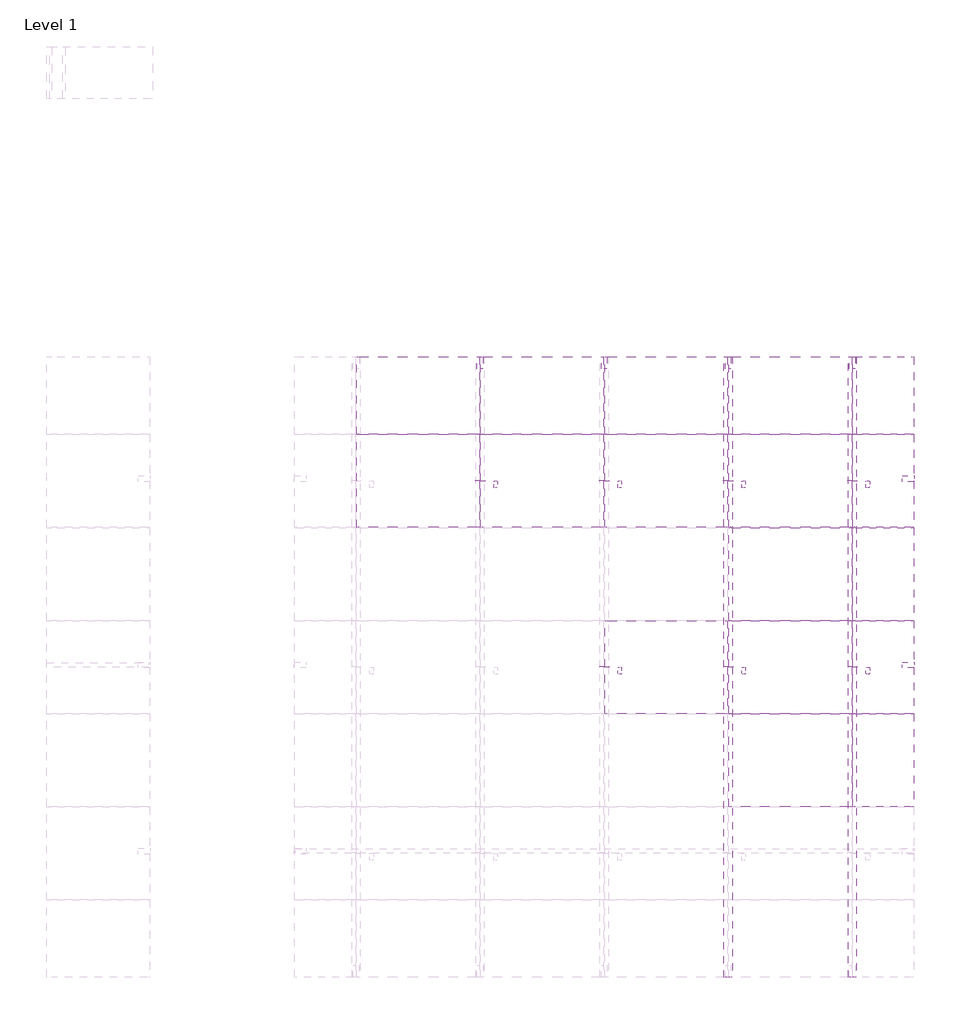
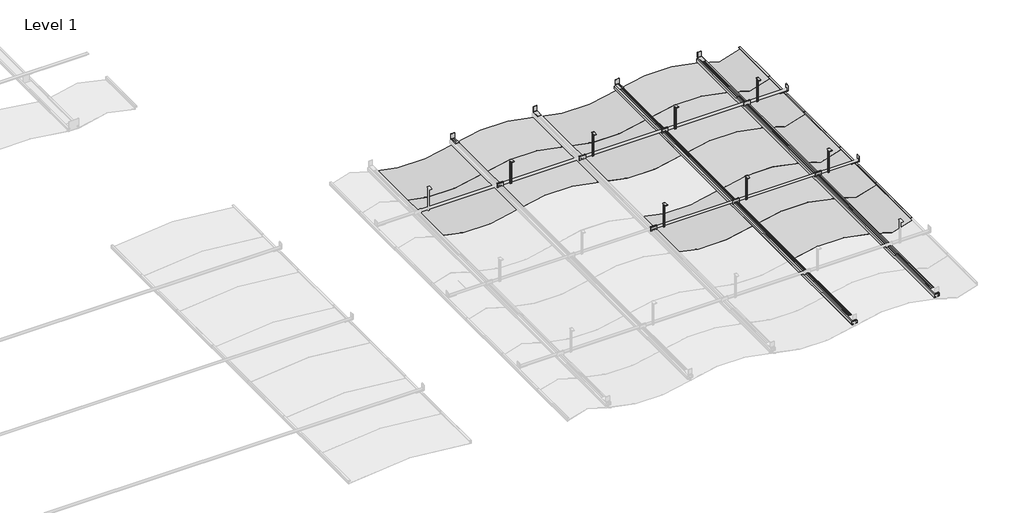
# One storey, part 32 of 32: 39 proxies.
"""IFC4 building model written with IfcOpenShell, lengths in millimetres."""

from ifc_helpers import new_model, si_unit, origin, place, context, project, spatial, transform, mapped, element, save
from components import generic_models_b18b6bec, generic_models_10d21898, generic_models_e175033b, generic_models_3b12604e, generic_models_41f043e1, generic_models_075569b2, generic_models_e62b76ac, generic_models_9e18e937, generic_models_9ccf16c1, generic_models_743fb40c

model = new_model("IFC4")

# Units and contexts
model_context = context("Model", 3, world=origin())
ifc_project = project(units=[si_unit("LENGTHUNIT", "METRE", prefix="MILLI")], contexts=[model_context])

# Site, building, storey
site = spatial("IfcSite", under=ifc_project)
building = spatial("IfcBuilding", under=site)
storey = spatial("IfcBuildingStorey", under=building, Name="Level 1", Elevation=0.0)

# Proxies
placement = place(None, origin())
generic_models_shape = generic_models_b18b6bec(model_context)
element("IfcBuildingElementProxy", 1, Name="durlum_S7_DOMUS_ALT_panel : durlum_S7_DOMUS_panel_wall_length_cut", ObjectType="durlum_S7_DOMUS_ALT_panel : durlum_S7_DOMUS_panel_wall_length_cut", at=placement, inside=storey, context=model_context, shape_type="MappedRepresentation", body=[
    mapped(generic_models_shape, transform((51188.589341, 19637.9344659, 3700.0), x_axis=(1.0, 0.0, 0.0), y_axis=(0.0, 1.0, 0.0), z_axis=(0.0, 0.0, 1.0))),
])
element("IfcBuildingElementProxy", 2, Name="durlum_S7_DOMUS_ALT_panel : durlum_S7_DOMUS_panel_wall_length_cut", ObjectType="durlum_S7_DOMUS_ALT_panel : durlum_S7_DOMUS_panel_wall_length_cut", at=placement, inside=storey, context=model_context, shape_type="MappedRepresentation", body=[
    mapped(generic_models_shape, transform((51188.589341, 20237.9344659, 3700.0), x_axis=(1.0, 0.0, 0.0), y_axis=(0.0, 1.0, 0.0), z_axis=(0.0, 0.0, 1.0))),
])
element("IfcBuildingElementProxy", 3, Name="durlum_S7_DOMUS_ALT_panel : durlum_S7_DOMUS_panel_wall_length_cut", ObjectType="durlum_S7_DOMUS_ALT_panel : durlum_S7_DOMUS_panel_wall_length_cut", at=placement, inside=storey, context=model_context, shape_type="MappedRepresentation", body=[
    mapped(generic_models_shape, transform((51188.589341, 18437.9344659, 3700.0), x_axis=(1.0, 0.0, 0.0), y_axis=(0.0, 1.0, 0.0), z_axis=(0.0, 0.0, 1.0))),
])
element("IfcBuildingElementProxy", 4, Name="durlum_S7_DOMUS_ALT_panel : durlum_S7_DOMUS_panel_wall_length_cut", ObjectType="durlum_S7_DOMUS_ALT_panel : durlum_S7_DOMUS_panel_wall_length_cut", at=placement, inside=storey, context=model_context, shape_type="MappedRepresentation", body=[
    mapped(generic_models_shape, transform((51188.589341, 19037.9344659, 3700.0), x_axis=(1.0, 0.0, 0.0), y_axis=(0.0, 1.0, 0.0), z_axis=(0.0, 0.0, 1.0))),
])
generic_models_2_shape = generic_models_10d21898(model_context)
element("IfcBuildingElementProxy", 5, Name="durlum_S7_DOMUS_ALT_panel : durlum_S7_DOMUS_panel", ObjectType="durlum_S7_DOMUS_ALT_panel : durlum_S7_DOMUS_panel", at=placement, inside=storey, context=model_context, shape_type="MappedRepresentation", body=[
    mapped(generic_models_2_shape, transform((48188.589341, 20237.9344659, 3700.0), x_axis=(1.0, 0.0, 0.0), y_axis=(0.0, 1.0, 0.0), z_axis=(0.0, 0.0, 1.0))),
])
element("IfcBuildingElementProxy", 6, Name="durlum_S7_DOMUS_ALT_panel : durlum_S7_DOMUS_panel", ObjectType="durlum_S7_DOMUS_ALT_panel : durlum_S7_DOMUS_panel", at=placement, inside=storey, context=model_context, shape_type="MappedRepresentation", body=[
    mapped(generic_models_2_shape, transform((49788.589341, 20237.9344659, 3700.0), x_axis=(1.0, 0.0, 0.0), y_axis=(0.0, 1.0, 0.0), z_axis=(0.0, 0.0, 1.0))),
])
element("IfcBuildingElementProxy", 7, Name="durlum_S7_DOMUS_ALT_panel : durlum_S7_DOMUS_panel", ObjectType="durlum_S7_DOMUS_ALT_panel : durlum_S7_DOMUS_panel", at=placement, inside=storey, context=model_context, shape_type="MappedRepresentation", body=[
    mapped(generic_models_2_shape, transform((49788.589341, 19037.9344659, 3700.0), x_axis=(1.0, 0.0, 0.0), y_axis=(0.0, 1.0, 0.0), z_axis=(0.0, 0.0, 1.0))),
])
generic_models_3_shape = generic_models_e175033b(model_context)
element("IfcBuildingElementProxy", 8, Name="durlum_S7_DOMUS_ALT_panel : durlum_S7_DOMUS_panel", ObjectType="durlum_S7_DOMUS_ALT_panel : durlum_S7_DOMUS_panel", at=placement, inside=storey, context=model_context, shape_type="MappedRepresentation", body=[
    mapped(generic_models_3_shape, transform((50588.589341, 19637.9344659, 3700.0), x_axis=(1.0, 0.0, 0.0), y_axis=(0.0, 1.0, 0.0), z_axis=(0.0, 0.0, 1.0))),
])
element("IfcBuildingElementProxy", 9, Name="durlum_S7_DOMUS_ALT_panel : durlum_S7_DOMUS_panel", ObjectType="durlum_S7_DOMUS_ALT_panel : durlum_S7_DOMUS_panel", at=placement, inside=storey, context=model_context, shape_type="MappedRepresentation", body=[
    mapped(generic_models_3_shape, transform((50588.589341, 20237.9344659, 3700.0), x_axis=(1.0, 0.0, 0.0), y_axis=(0.0, 1.0, 0.0), z_axis=(0.0, 0.0, 1.0))),
])
element("IfcBuildingElementProxy", 10, Name="durlum_S7_DOMUS_ALT_panel : durlum_S7_DOMUS_panel", ObjectType="durlum_S7_DOMUS_ALT_panel : durlum_S7_DOMUS_panel", at=placement, inside=storey, context=model_context, shape_type="MappedRepresentation", body=[
    mapped(generic_models_3_shape, transform((48988.589341, 20237.9344659, 3700.0), x_axis=(1.0, 0.0, 0.0), y_axis=(0.0, 1.0, 0.0), z_axis=(0.0, 0.0, 1.0))),
])
element("IfcBuildingElementProxy", 11, Name="durlum_S7_DOMUS_ALT_panel : durlum_S7_DOMUS_panel", ObjectType="durlum_S7_DOMUS_ALT_panel : durlum_S7_DOMUS_panel", at=placement, inside=storey, context=model_context, shape_type="MappedRepresentation", body=[
    mapped(generic_models_3_shape, transform((50588.589341, 18437.9344659, 3700.0), x_axis=(1.0, 0.0, 0.0), y_axis=(0.0, 1.0, 0.0), z_axis=(0.0, 0.0, 1.0))),
])
element("IfcBuildingElementProxy", 12, Name="durlum_S7_DOMUS_ALT_panel : durlum_S7_DOMUS_panel", ObjectType="durlum_S7_DOMUS_ALT_panel : durlum_S7_DOMUS_panel", at=placement, inside=storey, context=model_context, shape_type="MappedRepresentation", body=[
    mapped(generic_models_3_shape, transform((50588.589341, 19037.9344659, 3700.0), x_axis=(1.0, 0.0, 0.0), y_axis=(0.0, 1.0, 0.0), z_axis=(0.0, 0.0, 1.0))),
])
generic_models_4_shape = generic_models_3b12604e(model_context)
element("IfcBuildingElementProxy", 13, Name="durlum_S7_DOMUS_ALT_panel : durlum_S7_DOMUS_panel_wall_corner", ObjectType="durlum_S7_DOMUS_ALT_panel : durlum_S7_DOMUS_panel_wall_corner", at=placement, inside=storey, context=model_context, shape_type="MappedRepresentation", body=[
    mapped(generic_models_4_shape, transform((51188.589341, 20787.9344659, 3700.0), x_axis=(1.0, 0.0, 0.0), y_axis=(0.0, 1.0, 0.0), z_axis=(0.0, 0.0, 1.0))),
])
generic_models_5_shape = generic_models_41f043e1(model_context)
element("IfcBuildingElementProxy", 14, Name="durlum_S7_DOMUS_ALT_panel : durlum_S7_DOMUS_panel", ObjectType="durlum_S7_DOMUS_ALT_panel : durlum_S7_DOMUS_panel", at=placement, inside=storey, context=model_context, shape_type="MappedRepresentation", body=[
    mapped(generic_models_5_shape, transform((48988.589341, 20787.9344659, 3700.0), x_axis=(1.0, 0.0, 0.0), y_axis=(0.0, 1.0, 0.0), z_axis=(0.0, 0.0, 1.0))),
])
element("IfcBuildingElementProxy", 15, Name="durlum_S7_DOMUS_ALT_panel : durlum_S7_DOMUS_panel", ObjectType="durlum_S7_DOMUS_ALT_panel : durlum_S7_DOMUS_panel", at=placement, inside=storey, context=model_context, shape_type="MappedRepresentation", body=[
    mapped(generic_models_5_shape, transform((50588.589341, 20787.9344659, 3700.0), x_axis=(1.0, 0.0, 0.0), y_axis=(0.0, 1.0, 0.0), z_axis=(0.0, 0.0, 1.0))),
])
generic_models_6_shape = generic_models_075569b2(model_context)
element("IfcBuildingElementProxy", 16, Name="durlum_S7_DOMUS_ALT_panel : durlum_S7_DOMUS_panel", ObjectType="durlum_S7_DOMUS_ALT_panel : durlum_S7_DOMUS_panel", at=placement, inside=storey, context=model_context, shape_type="MappedRepresentation", body=[
    mapped(generic_models_6_shape, transform((49788.589341, 20787.9344659, 3700.0), x_axis=(1.0, 0.0, 0.0), y_axis=(0.0, 1.0, 0.0), z_axis=(0.0, 0.0, 1.0))),
])
element("IfcBuildingElementProxy", 17, Name="durlum_S7_DOMUS_ALT_panel : durlum_S7_DOMUS_panel", ObjectType="durlum_S7_DOMUS_ALT_panel : durlum_S7_DOMUS_panel", at=placement, inside=storey, context=model_context, shape_type="MappedRepresentation", body=[
    mapped(generic_models_6_shape, transform((48188.589341, 20787.9344659, 3700.0), x_axis=(1.0, 0.0, 0.0), y_axis=(0.0, 1.0, 0.0), z_axis=(0.0, 0.0, 1.0))),
])
generic_models_7_shape = generic_models_e62b76ac(model_context)
element("IfcBuildingElementProxy", 18, Name="durlum_U1300 : durlum_U1300", ObjectType="durlum_U1300 : durlum_U1300", at=placement, inside=storey, context=model_context, shape_type="MappedRepresentation", body=[
    mapped(generic_models_7_shape, transform((51088.589341, 20237.9344659, 3041.4124682), x_axis=(1.0, 0.0, 0.0), y_axis=(0.0, 1.0, 0.0), z_axis=(0.0, 0.0, 1.0))),
])
element("IfcBuildingElementProxy", 19, Name="durlum_U1300 : durlum_U1300", ObjectType="durlum_U1300 : durlum_U1300", at=placement, inside=storey, context=model_context, shape_type="MappedRepresentation", body=[
    mapped(generic_models_7_shape, transform((48688.589341, 20237.9344659, 3041.4124682), x_axis=(1.0, 0.0, 0.0), y_axis=(0.0, 1.0, 0.0), z_axis=(0.0, 0.0, 1.0))),
])
element("IfcBuildingElementProxy", 20, Name="durlum_U1300 : durlum_U1300", ObjectType="durlum_U1300 : durlum_U1300", at=placement, inside=storey, context=model_context, shape_type="MappedRepresentation", body=[
    mapped(generic_models_7_shape, transform((49488.589341, 20237.9344659, 3041.4124682), x_axis=(1.0, 0.0, 0.0), y_axis=(0.0, 1.0, 0.0), z_axis=(0.0, 0.0, 1.0))),
])
element("IfcBuildingElementProxy", 21, Name="durlum_U1300 : durlum_U1300", ObjectType="durlum_U1300 : durlum_U1300", at=placement, inside=storey, context=model_context, shape_type="MappedRepresentation", body=[
    mapped(generic_models_7_shape, transform((50288.589341, 20237.9344659, 3041.4124682), x_axis=(1.0, 0.0, 0.0), y_axis=(0.0, 1.0, 0.0), z_axis=(0.0, 0.0, 1.0))),
])
element("IfcBuildingElementProxy", 22, Name="durlum_U1300 : durlum_U1300", ObjectType="durlum_U1300 : durlum_U1300", at=placement, inside=storey, context=model_context, shape_type="MappedRepresentation", body=[
    mapped(generic_models_7_shape, transform((51088.589341, 19037.9344659, 3041.4124682), x_axis=(1.0, 0.0, 0.0), y_axis=(0.0, 1.0, 0.0), z_axis=(0.0, 0.0, 1.0))),
])
element("IfcBuildingElementProxy", 23, Name="durlum_U1300 : durlum_U1300", ObjectType="durlum_U1300 : durlum_U1300", at=placement, inside=storey, context=model_context, shape_type="MappedRepresentation", body=[
    mapped(generic_models_7_shape, transform((49488.589341, 19037.9344659, 3041.4124682), x_axis=(1.0, 0.0, 0.0), y_axis=(0.0, 1.0, 0.0), z_axis=(0.0, 0.0, 1.0))),
])
element("IfcBuildingElementProxy", 24, Name="durlum_U1300 : durlum_U1300", ObjectType="durlum_U1300 : durlum_U1300", at=placement, inside=storey, context=model_context, shape_type="MappedRepresentation", body=[
    mapped(generic_models_7_shape, transform((50288.589341, 19037.9344659, 3041.4124682), x_axis=(1.0, 0.0, 0.0), y_axis=(0.0, 1.0, 0.0), z_axis=(0.0, 0.0, 1.0))),
])
generic_models_8_shape = generic_models_9e18e937(model_context)
element("IfcBuildingElementProxy", 25, Name="durlum_U1042 : durlum_U1042", ObjectType="durlum_U1042 : durlum_U1042", at=placement, inside=storey, context=model_context, shape_type="MappedRepresentation", body=[
    mapped(generic_models_8_shape, transform((48588.589341, 21037.9344659, 3763.0), x_axis=(1.0, 0.0, 0.0), y_axis=(0.0, 1.0, 0.0), z_axis=(0.0, 0.0, 1.0))),
])
element("IfcBuildingElementProxy", 26, Name="durlum_U1042 : durlum_U1042", ObjectType="durlum_U1042 : durlum_U1042", at=placement, inside=storey, context=model_context, shape_type="MappedRepresentation", body=[
    mapped(generic_models_8_shape, transform((49388.589341, 21037.9344659, 3763.0), x_axis=(1.0, 0.0, 0.0), y_axis=(0.0, 1.0, 0.0), z_axis=(0.0, 0.0, 1.0))),
])
element("IfcBuildingElementProxy", 27, Name="durlum_U1042 : durlum_U1042", ObjectType="durlum_U1042 : durlum_U1042", at=placement, inside=storey, context=model_context, shape_type="MappedRepresentation", body=[
    mapped(generic_models_8_shape, transform((50188.589341, 21037.9344659, 3763.0), x_axis=(1.0, 0.0, 0.0), y_axis=(0.0, 1.0, 0.0), z_axis=(0.0, 0.0, 1.0))),
])
element("IfcBuildingElementProxy", 28, Name="durlum_U1042 : durlum_U1042", ObjectType="durlum_U1042 : durlum_U1042", at=placement, inside=storey, context=model_context, shape_type="MappedRepresentation", body=[
    mapped(generic_models_8_shape, transform((50988.589341, 21037.9344659, 3763.0), x_axis=(1.0, 0.0, 0.0), y_axis=(0.0, 1.0, 0.0), z_axis=(0.0, 0.0, 1.0))),
])
element("IfcBuildingElementProxy", 29, Name="durlum_U1042 : durlum_U1042", ObjectType="durlum_U1042 : durlum_U1042", at=placement, inside=storey, context=model_context, shape_type="MappedRepresentation", body=[
    mapped(generic_models_8_shape, transform((51388.589341, 19051.9344659, 3761.0), x_axis=(0.0, -1.0, 0.0), y_axis=(1.0, 0.0, 0.0), z_axis=(0.0, 0.0, 1.0))),
])
element("IfcBuildingElementProxy", 30, Name="durlum_U1042 : durlum_U1042", ObjectType="durlum_U1042 : durlum_U1042", at=placement, inside=storey, context=model_context, shape_type="MappedRepresentation", body=[
    mapped(generic_models_8_shape, transform((51388.589341, 20251.9344659, 3761.0), x_axis=(0.0, -1.0, 0.0), y_axis=(1.0, 0.0, 0.0), z_axis=(0.0, 0.0, 1.0))),
])
generic_models_9_shape = generic_models_9ccf16c1(model_context)
element("IfcBuildingElementProxy", 31, Name="durlum_U1093V : durlum_U1093V", ObjectType="durlum_U1093V : durlum_U1093V", at=placement, inside=storey, context=model_context, shape_type="MappedRepresentation", body=[
    mapped(generic_models_9_shape, transform((49388.589341, 20236.4344659, 3753.0), x_axis=(-1.0, 0.0, 0.0), y_axis=(0.0, -1.0, 0.0), z_axis=(0.0, 0.0, 1.0))),
])
element("IfcBuildingElementProxy", 32, Name="durlum_U1093V : durlum_U1093V", ObjectType="durlum_U1093V : durlum_U1093V", at=placement, inside=storey, context=model_context, shape_type="MappedRepresentation", body=[
    mapped(generic_models_9_shape, transform((48588.589341, 20236.4344659, 3753.0), x_axis=(-1.0, 0.0, 0.0), y_axis=(0.0, -1.0, 0.0), z_axis=(0.0, 0.0, 1.0))),
])
element("IfcBuildingElementProxy", 33, Name="durlum_U1093V : durlum_U1093V", ObjectType="durlum_U1093V : durlum_U1093V", at=placement, inside=storey, context=model_context, shape_type="MappedRepresentation", body=[
    mapped(generic_models_9_shape, transform((49388.589341, 19036.4344659, 3753.0), x_axis=(-1.0, 0.0, 0.0), y_axis=(0.0, -1.0, 0.0), z_axis=(0.0, 0.0, 1.0))),
])
element("IfcBuildingElementProxy", 34, Name="durlum_U1093V : durlum_U1093V", ObjectType="durlum_U1093V : durlum_U1093V", at=placement, inside=storey, context=model_context, shape_type="MappedRepresentation", body=[
    mapped(generic_models_9_shape, transform((50988.589341, 19036.4344659, 3753.0), x_axis=(-1.0, 0.0, 0.0), y_axis=(0.0, -1.0, 0.0), z_axis=(0.0, 0.0, 1.0))),
])
element("IfcBuildingElementProxy", 35, Name="durlum_U1093V : durlum_U1093V", ObjectType="durlum_U1093V : durlum_U1093V", at=placement, inside=storey, context=model_context, shape_type="MappedRepresentation", body=[
    mapped(generic_models_9_shape, transform((50188.589341, 19036.4344659, 3753.0), x_axis=(-1.0, 0.0, 0.0), y_axis=(0.0, -1.0, 0.0), z_axis=(0.0, 0.0, 1.0))),
])
element("IfcBuildingElementProxy", 36, Name="durlum_U1093V : durlum_U1093V", ObjectType="durlum_U1093V : durlum_U1093V", at=placement, inside=storey, context=model_context, shape_type="MappedRepresentation", body=[
    mapped(generic_models_9_shape, transform((50988.589341, 20236.4344659, 3753.0), x_axis=(-1.0, 0.0, 0.0), y_axis=(0.0, -1.0, 0.0), z_axis=(0.0, 0.0, 1.0))),
])
element("IfcBuildingElementProxy", 37, Name="durlum_U1093V : durlum_U1093V", ObjectType="durlum_U1093V : durlum_U1093V", at=placement, inside=storey, context=model_context, shape_type="MappedRepresentation", body=[
    mapped(generic_models_9_shape, transform((50188.589341, 20236.4344659, 3753.0), x_axis=(-1.0, 0.0, 0.0), y_axis=(0.0, -1.0, 0.0), z_axis=(0.0, 0.0, 1.0))),
])
generic_models_10_shape = generic_models_743fb40c(model_context)
element("IfcBuildingElementProxy", 38, Name="durlum_W2053 : durlum_W2053", ObjectType="durlum_W2053 : durlum_W2053", at=placement, inside=storey, context=model_context, shape_type="MappedRepresentation", body=[
    mapped(generic_models_10_shape, transform((50188.589341, 19037.9344659, 3723.0), x_axis=(0.0, -1.0, 0.0), y_axis=(1.0, 0.0, 0.0), z_axis=(0.0, 0.0, 1.0))),
])
element("IfcBuildingElementProxy", 39, Name="durlum_W2053 : durlum_W2053", ObjectType="durlum_W2053 : durlum_W2053", at=placement, inside=storey, context=model_context, shape_type="MappedRepresentation", body=[
    mapped(generic_models_10_shape, transform((50988.589341, 19037.9344659, 3723.0), x_axis=(0.0, -1.0, 0.0), y_axis=(1.0, 0.0, 0.0), z_axis=(0.0, 0.0, 1.0))),
])

save(model, "model.ifc")
